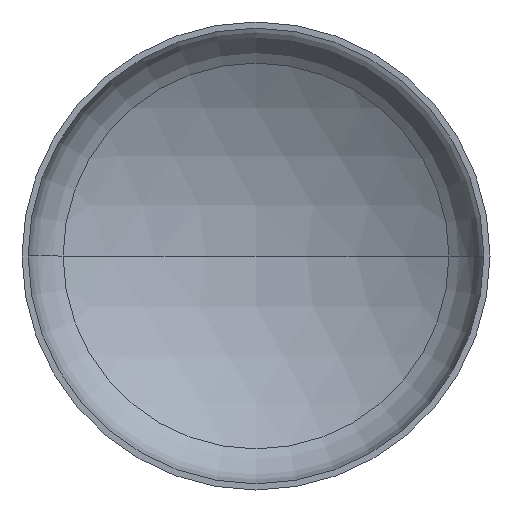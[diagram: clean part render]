
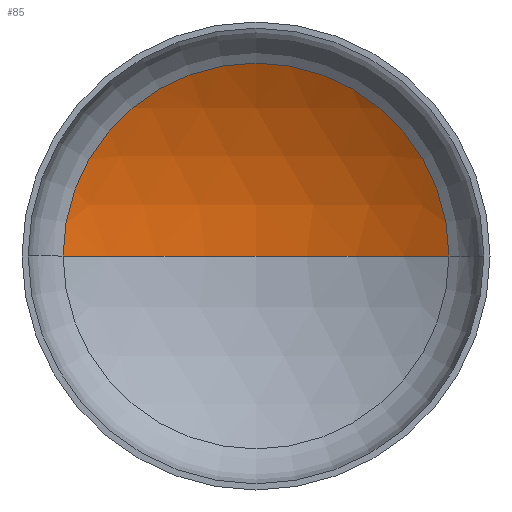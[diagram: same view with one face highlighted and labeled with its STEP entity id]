
A CAD part, front view. The second image highlights one B-rep face of the part: STEP entity #85.
In plain terms, the highlighted spherical face has radius 5200 mm.
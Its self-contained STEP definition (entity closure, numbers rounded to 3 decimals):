
#4 = DIRECTION ( 'NONE',  ( 1., 0., 0. ) ) ;
#7 = ORIENTED_EDGE ( 'NONE', *, *, #150, .T. ) ;
#11 = ORIENTED_EDGE ( 'NONE', *, *, #154, .T. ) ;
#70 = AXIS2_PLACEMENT_3D ( 'NONE', #193, #382, #4 ) ;
#74 = AXIS2_PLACEMENT_3D ( 'NONE', #247, #401, #157 ) ;
#76 = AXIS2_PLACEMENT_3D ( 'NONE', #201, #190, #194 ) ;
#77 = ORIENTED_EDGE ( 'NONE', *, *, #156, .F. ) ;
#85 = ADVANCED_FACE ( 'NONE', ( #174 ), #235, .F. ) ;
#112 = AXIS2_PLACEMENT_3D ( 'NONE', #238, #280, #217 ) ;
#116 = CARTESIAN_POINT ( 'NONE',  ( -2679.238, 957.047, 0. ) ) ;
#119 = VERTEX_POINT ( 'NONE', #328 ) ;
#124 = CIRCLE ( 'NONE', #74, 5200. ) ;
#126 = EDGE_LOOP ( 'NONE', ( #77, #11, #7 ) ) ;
#146 = CARTESIAN_POINT ( 'NONE',  ( 2679.238, 957.047, 0. ) ) ;
#150 = EDGE_CURVE ( 'NONE', #153, #263, #340, .T. ) ;
#153 = VERTEX_POINT ( 'NONE', #146 ) ;
#154 = EDGE_CURVE ( 'NONE', #119, #153, #124, .T. ) ;
#156 = EDGE_CURVE ( 'NONE', #119, #263, #286, .T. ) ;
#157 = DIRECTION ( 'NONE',  ( -1., 0., 0. ) ) ;
#174 = FACE_OUTER_BOUND ( 'NONE', #126, .T. ) ;
#190 = DIRECTION ( 'NONE',  ( 0., -1., 0. ) ) ;
#193 = CARTESIAN_POINT ( 'NONE',  ( 0., -3499.598, 0. ) ) ;
#194 = DIRECTION ( 'NONE',  ( 1., 0., 0. ) ) ;
#201 = CARTESIAN_POINT ( 'NONE',  ( 0., 957.047, 0. ) ) ;
#217 = DIRECTION ( 'NONE',  ( -1., 0., 0. ) ) ;
#235 = SPHERICAL_SURFACE ( 'NONE', #112, 5200. ) ;
#238 = CARTESIAN_POINT ( 'NONE',  ( 0., -3499.598, 0. ) ) ;
#247 = CARTESIAN_POINT ( 'NONE',  ( 0., -3499.598, 0. ) ) ;
#263 = VERTEX_POINT ( 'NONE', #116 ) ;
#280 = DIRECTION ( 'NONE',  ( 0., 0., -1. ) ) ;
#286 = CIRCLE ( 'NONE', #70, 5200. ) ;
#328 = CARTESIAN_POINT ( 'NONE',  ( 0., 1700.402, 0. ) ) ;
#340 = CIRCLE ( 'NONE', #76, 2679.238 ) ;
#382 = DIRECTION ( 'NONE',  ( 0., 0., 1. ) ) ;
#401 = DIRECTION ( 'NONE',  ( 0., 0., -1. ) ) ;
